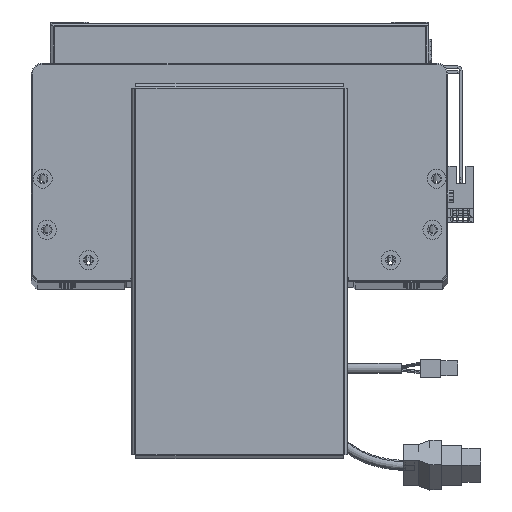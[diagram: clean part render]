
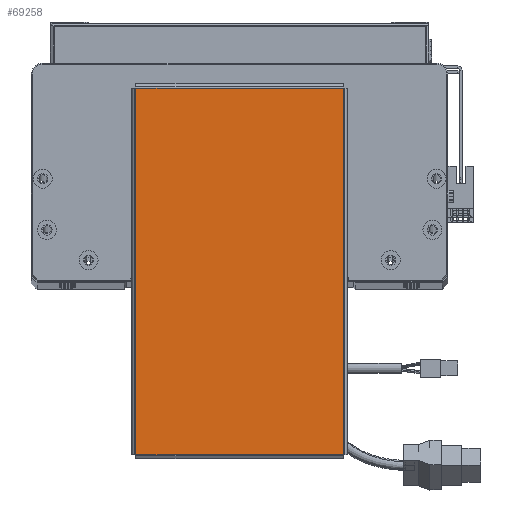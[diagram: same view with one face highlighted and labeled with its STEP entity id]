
A CAD part, top view. The second image highlights one B-rep face of the part: STEP entity #69258.
In plain terms, the highlighted planar face has unit normal (0, 0, 1).
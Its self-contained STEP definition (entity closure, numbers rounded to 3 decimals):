
#1660 = DIRECTION ( 'NONE',  ( 1., 0., 0. ) ) ;
#2089 = EDGE_CURVE ( 'NONE', #46537, #5724, #23713, .T. ) ;
#5457 = CARTESIAN_POINT ( 'NONE',  ( -96.793, -54.763, 0. ) ) ;
#5724 = VERTEX_POINT ( 'NONE', #19782 ) ;
#13072 = PLANE ( 'NONE',  #63573 ) ;
#13421 = EDGE_CURVE ( 'NONE', #37761, #42498, #26878, .T. ) ;
#16293 = ORIENTED_EDGE ( 'NONE', *, *, #53520, .T. ) ;
#19782 = CARTESIAN_POINT ( 'NONE',  ( -96.763, -54.763, 0. ) ) ;
#23713 = LINE ( 'NONE', #60994, #44932 ) ;
#24968 = CARTESIAN_POINT ( 'NONE',  ( 96.763, -54.793, 0. ) ) ;
#25196 = VECTOR ( 'NONE', #52037, 1000. ) ;
#26784 = EDGE_CURVE ( 'NONE', #42498, #46537, #38667, .T. ) ;
#26878 = LINE ( 'NONE', #24968, #25196 ) ;
#27404 = CARTESIAN_POINT ( 'NONE',  ( 96.763, 54.763, 0. ) ) ;
#28466 = CARTESIAN_POINT ( 'NONE',  ( 0., 0., 0. ) ) ;
#31033 = ORIENTED_EDGE ( 'NONE', *, *, #26784, .T. ) ;
#35130 = CARTESIAN_POINT ( 'NONE',  ( 96.793, 54.763, 0. ) ) ;
#37761 = VERTEX_POINT ( 'NONE', #51472 ) ;
#38667 = LINE ( 'NONE', #35130, #42071 ) ;
#42071 = VECTOR ( 'NONE', #51297, 1000. ) ;
#42498 = VERTEX_POINT ( 'NONE', #27404 ) ;
#43576 = CARTESIAN_POINT ( 'NONE',  ( -96.763, 54.763, 0. ) ) ;
#44932 = VECTOR ( 'NONE', #66695, 1000. ) ;
#46537 = VERTEX_POINT ( 'NONE', #43576 ) ;
#50982 = ORIENTED_EDGE ( 'NONE', *, *, #13421, .T. ) ;
#51297 = DIRECTION ( 'NONE',  ( -1., 0., 0. ) ) ;
#51472 = CARTESIAN_POINT ( 'NONE',  ( 96.763, -54.763, 0. ) ) ;
#52037 = DIRECTION ( 'NONE',  ( 0., 1., 0. ) ) ;
#53520 = EDGE_CURVE ( 'NONE', #5724, #37761, #68464, .T. ) ;
#53650 = FACE_OUTER_BOUND ( 'NONE', #56526, .T. ) ;
#54003 = VECTOR ( 'NONE', #61048, 1000. ) ;
#55297 = DIRECTION ( 'NONE',  ( 0., 0., 1. ) ) ;
#56526 = EDGE_LOOP ( 'NONE', ( #16293, #50982, #31033, #60307 ) ) ;
#60307 = ORIENTED_EDGE ( 'NONE', *, *, #2089, .T. ) ;
#60994 = CARTESIAN_POINT ( 'NONE',  ( -96.763, 54.793, 0. ) ) ;
#61048 = DIRECTION ( 'NONE',  ( 1., 0., 0. ) ) ;
#63573 = AXIS2_PLACEMENT_3D ( 'NONE', #28466, #55297, #1660 ) ;
#66695 = DIRECTION ( 'NONE',  ( 0., -1., 0. ) ) ;
#68464 = LINE ( 'NONE', #5457, #54003 ) ;
#69258 = ADVANCED_FACE ( 'NONE', ( #53650 ), #13072, .T. ) ;
